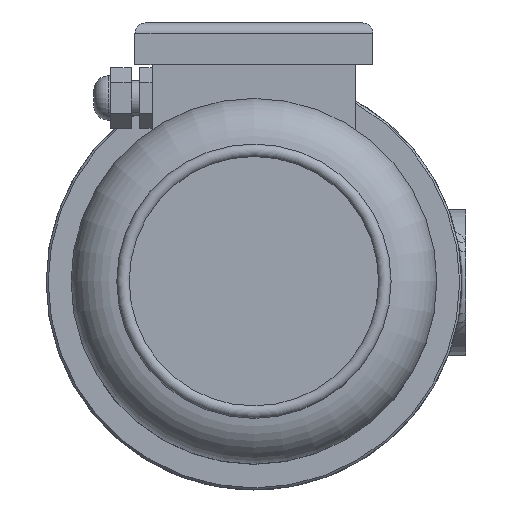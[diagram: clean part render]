
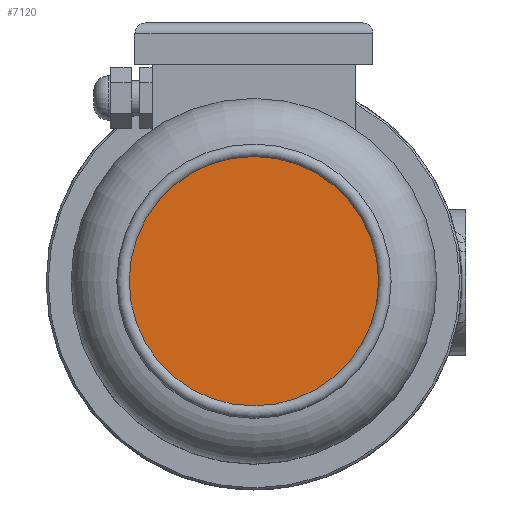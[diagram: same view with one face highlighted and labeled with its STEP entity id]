
A CAD part, top view. The second image highlights one B-rep face of the part: STEP entity #7120.
In plain terms, the highlighted planar face has unit normal (0, 0, 1).
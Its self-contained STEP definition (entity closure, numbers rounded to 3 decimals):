
#377=PLANE('',#7858);
#894=CIRCLE('',#7857,60.);
#2060=ORIENTED_EDGE('',*,*,#3768,.F.);
#3768=EDGE_CURVE('',#4687,#4687,#894,.T.);
#4687=VERTEX_POINT('',#12423);
#6094=EDGE_LOOP('',(#2060));
#6614=FACE_BOUND('',#6094,.T.);
#7120=ADVANCED_FACE('',(#6614),#377,.T.);
#7857=AXIS2_PLACEMENT_3D('',#12422,#9341,#9342);
#7858=AXIS2_PLACEMENT_3D('',#12424,#9343,#9344);
#9341=DIRECTION('',(0.,0.,-1.));
#9342=DIRECTION('',(-1.,0.,0.));
#9343=DIRECTION('',(0.,0.,1.));
#9344=DIRECTION('',(1.,0.,0.));
#12422=CARTESIAN_POINT('',(0.,0.,597.584));
#12423=CARTESIAN_POINT('',(-60.,0.,597.584));
#12424=CARTESIAN_POINT('',(-60.,0.,597.584));
